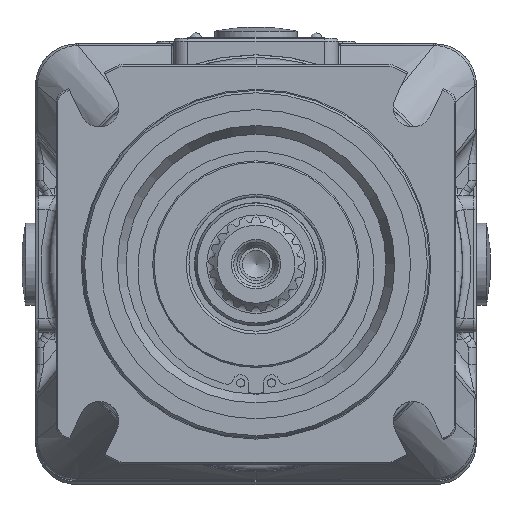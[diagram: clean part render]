
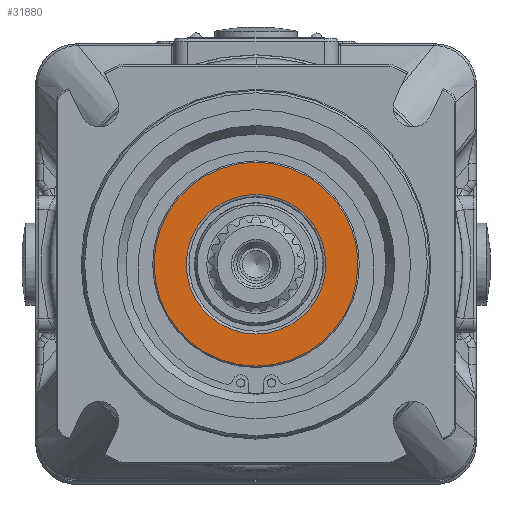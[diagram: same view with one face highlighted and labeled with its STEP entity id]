
A CAD part, front view. The second image highlights one B-rep face of the part: STEP entity #31880.
In plain terms, the highlighted planar face has unit normal (0, -1, 0).
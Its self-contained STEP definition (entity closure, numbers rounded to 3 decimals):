
#6809=PLANE('',#34250);
#7183=FACE_BOUND('',#10387,.T.);
#8331=FACE_OUTER_BOUND('',#10386,.T.);
#10386=EDGE_LOOP('',(#24966));
#10387=EDGE_LOOP('',(#24967));
#11781=CIRCLE('',#34249,37.25);
#11782=CIRCLE('',#34251,25.5);
#14282=VERTEX_POINT('',#52993);
#14283=VERTEX_POINT('',#52996);
#17973=EDGE_CURVE('',#14282,#14282,#11781,.T.);
#17974=EDGE_CURVE('',#14283,#14283,#11782,.T.);
#24966=ORIENTED_EDGE('',*,*,#17973,.F.);
#24967=ORIENTED_EDGE('',*,*,#17974,.F.);
#31880=ADVANCED_FACE('',(#8331,#7183),#6809,.T.);
#34249=AXIS2_PLACEMENT_3D('',#52994,#40622,#40623);
#34250=AXIS2_PLACEMENT_3D('',#52995,#40624,#40625);
#34251=AXIS2_PLACEMENT_3D('',#52997,#40626,#40627);
#40622=DIRECTION('center_axis',(0.,1.,0.));
#40623=DIRECTION('ref_axis',(0.,0.,
-1.));
#40624=DIRECTION('center_axis',(0.,-1.,0.));
#40625=DIRECTION('ref_axis',(0.,0.,-1.));
#40626=DIRECTION('center_axis',(0.,-1.,0.));
#40627=DIRECTION('ref_axis',(0.,0.,
-1.));
#52993=CARTESIAN_POINT('',(0.,-154.9,37.25));
#52994=CARTESIAN_POINT('Origin',(0.,-154.9,0.));
#52995=CARTESIAN_POINT('Origin',(0.,-154.9,31.375));
#52996=CARTESIAN_POINT('',(0.,-154.9,25.5));
#52997=CARTESIAN_POINT('Origin',(0.,-154.9,0.));
